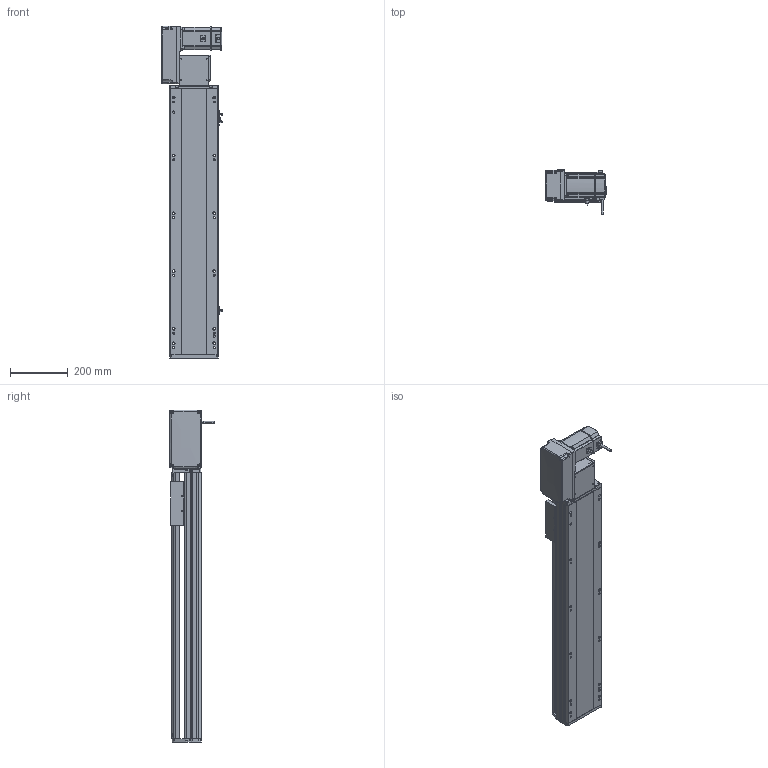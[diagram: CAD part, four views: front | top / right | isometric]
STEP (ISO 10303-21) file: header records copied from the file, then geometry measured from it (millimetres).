
FILE_DESCRIPTION (( 'STEP AP214' ), '1' );
FILE_NAME ('RTB17S-XX-650-L-M75-C4.STEP', '2025-12-12T00:09:52', ( '' ), ( '' ), 'SwSTEP 2.0', 'SolidWorks 2018', '' );
FILE_SCHEMA (( 'AUTOMOTIVE_DESIGN' ));
Length unit declared in the file: millimetre
Products named in the file (15): RTB17S-賑釱^RTB17S-XX-XX-L-M75-C4; RTB17S-L-007奻裔^RTB17S-XX-XX-L-M75-C4; RTB22S-GY-005P^RTB17S-L-々湍釱蚾饜-750W_RTB17S-XX-XX-L-M75-C4; RTB17-R-011菁釱^RTB17S-XX-XX-L-M75-C4; RTH13-BL-012覜茼え俋离^RTB17S-賑釱_RTB17S-XX-XX-L-M75-C4; RMP17S-L-014-T20-P75--々湍釱^RTB17S-L-々湍釱蚾饜-750W_RTB17S-XX-XX-L-M75-C4; RTB17S-XX-650-L-M75-C4; EE672^RTB17S-XX-XX-L-M75-C4; RTB17S-L-004-賑釱^RTB17S-賑釱_RTB17S-XX-XX-L-M75-C4; RTB17S-L-々湍釱蚾饜-750W^RTB17S-XX-XX-L-M75-C4; 750W萇儂^RTB17S-XX-XX-L-M75-C4; RTB22S-GY-017P^RTB17S-L-々湍釱蚾饜-750W_RTB17S-XX-XX-L-M75-C4; RTB22S-GY-018P^RTB17S-L-々湍釱蚾饜-750W_RTB17S-XX-XX-L-M75-C4; RTB22S-GY-008-M75--萇儂啣^RTB17S-L-々湍釱蚾饜-750W_RTB17S-XX-XX-L-M75-C4; RTB17S-L-001-耜醱啣^RTB17S-XX-XX-L-M75-C4
Assembly tree (17 placements, depth 3):
  RTB17S-XX-650-L-M75-C4
    RTB17-R-011菁釱^RTB17S-XX-XX-L-M75-C4
    EE672^RTB17S-XX-XX-L-M75-C4  x3
    RTB17S-L-001-耜醱啣^RTB17S-XX-XX-L-M75-C4
    RTB17S-賑釱^RTB17S-XX-XX-L-M75-C4
      RTB17S-L-004-賑釱^RTB17S-賑釱_RTB17S-XX-XX-L-M75-C4
      RTH13-BL-012覜茼え俋离^RTB17S-賑釱_RTB17S-XX-XX-L-M75-C4
    RTB17S-L-007奻裔^RTB17S-XX-XX-L-M75-C4
    750W萇儂^RTB17S-XX-XX-L-M75-C4
    RTB17S-L-々湍釱蚾饜-750W^RTB17S-XX-XX-L-M75-C4
      RMP17S-L-014-T20-P75--々湍釱^RTB17S-L-々湍釱蚾饜-750W_RTB17S-XX-XX-L-M75-C4
      RTB22S-GY-005P^RTB17S-L-々湍釱蚾饜-750W_RTB17S-XX-XX-L-M75-C4
      RTB22S-GY-017P^RTB17S-L-々湍釱蚾饜-750W_RTB17S-XX-XX-L-M75-C4  x2
      RTB22S-GY-008-M75--萇儂啣^RTB17S-L-々湍釱蚾饜-750W_RTB17S-XX-XX-L-M75-C4
      RTB22S-GY-018P^RTB17S-L-々湍釱蚾饜-750W_RTB17S-XX-XX-L-M75-C4
Bounding box: 210.4 x 152.7 x 1149 mm (x, y, z)
Volume: 10007991.2 mm3; surface area: 1642802.5 mm2
Topology: 17 solids, 17 shells, 2073 faces, 5728 edges, 3698 vertices
Faces by surface type: plane 968, cylinder 689, bspline 294, cone 110, sphere 8, torus 4
Entity records: 57334 total; most frequent: CARTESIAN_POINT 16792, ORIENTED_EDGE 8300, DIRECTION 7772, EDGE_CURVE 4150, AXIS2_PLACEMENT_3D 2718, VERTEX_POINT 2702, VECTOR 2336, LINE 2336
